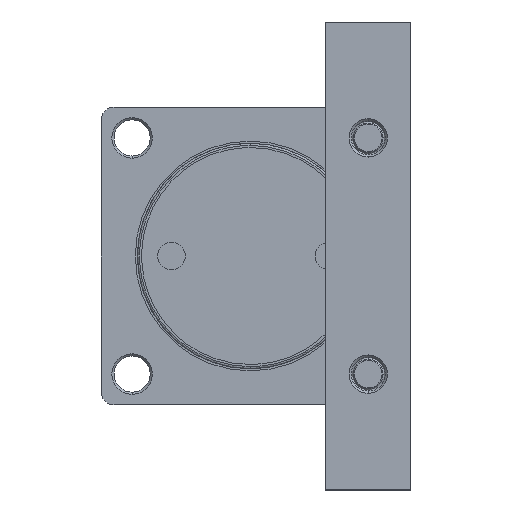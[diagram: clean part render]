
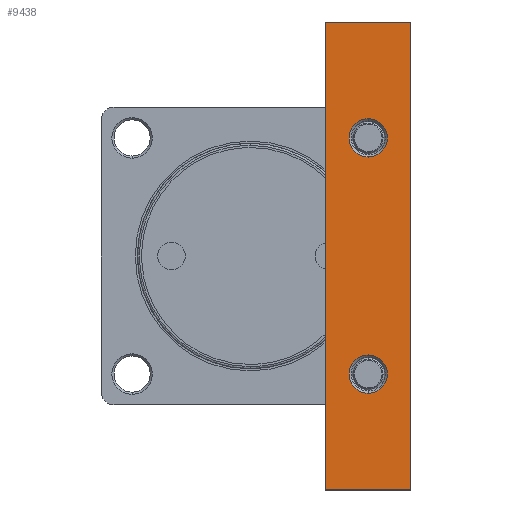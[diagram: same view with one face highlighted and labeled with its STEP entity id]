
A CAD part, left-side view. The second image highlights one B-rep face of the part: STEP entity #9438.
In plain terms, the highlighted planar face has unit normal (1, 0, 0).
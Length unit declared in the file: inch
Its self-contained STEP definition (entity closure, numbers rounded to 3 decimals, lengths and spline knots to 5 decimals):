
#19 = VERTEX_POINT ( 'NONE', #186 ) ;
#186 = CARTESIAN_POINT ( 'NONE',  ( -2.61811, -1.39764, 4.33071 ) ) ;
#230 = ORIENTED_EDGE ( 'NONE', *, *, #6034, .T. ) ;
#429 = VECTOR ( 'NONE', #11850, 39.37008 ) ;
#442 = LINE ( 'NONE', #7673, #429 ) ;
#628 = EDGE_CURVE ( 'NONE', #11640, #9962, #5969, .T. ) ;
#779 = ORIENTED_EDGE ( 'NONE', *, *, #628, .T. ) ;
#931 = ORIENTED_EDGE ( 'NONE', *, *, #4041, .T. ) ;
#1254 = VERTEX_POINT ( 'NONE', #11842 ) ;
#1878 = FACE_BOUND ( 'NONE', #12894, .T. ) ;
#1969 = FACE_OUTER_BOUND ( 'NONE', #3235, .T. ) ;
#1982 = FACE_BOUND ( 'NONE', #4458, .T. ) ;
#2039 = LINE ( 'NONE', #11623, #2139 ) ;
#2139 = VECTOR ( 'NONE', #6812, 39.37008 ) ;
#2271 = DIRECTION ( 'NONE',  ( 0., 1., 0. ) ) ;
#2320 = CARTESIAN_POINT ( 'NONE',  ( -2.61811, -2.97244, -4.33071 ) ) ;
#2336 = AXIS2_PLACEMENT_3D ( 'NONE', #9637, #9620, #9611 ) ;
#2429 = VECTOR ( 'NONE', #11247, 39.37008 ) ;
#2572 = LINE ( 'NONE', #13153, #2429 ) ;
#2613 = DIRECTION ( 'NONE',  ( 0., 0., -1. ) ) ;
#2740 = AXIS2_PLACEMENT_3D ( 'NONE', #9791, #9804, #9810 ) ;
#3235 = EDGE_LOOP ( 'NONE', ( #11594, #4270, #6238, #931 ) ) ;
#3581 = VERTEX_POINT ( 'NONE', #9352 ) ;
#4041 = EDGE_CURVE ( 'NONE', #1254, #9660, #11193, .T. ) ;
#4270 = ORIENTED_EDGE ( 'NONE', *, *, #9503, .T. ) ;
#4458 = EDGE_LOOP ( 'NONE', ( #230, #779 ) ) ;
#5829 = CIRCLE ( 'NONE', #2336, 0.35433 ) ;
#5969 = CIRCLE ( 'NONE', #2740, 0.35433 ) ;
#6034 = EDGE_CURVE ( 'NONE', #9962, #11640, #13309, .T. ) ;
#6042 = AXIS2_PLACEMENT_3D ( 'NONE', #8570, #8558, #8547 ) ;
#6075 = EDGE_CURVE ( 'NONE', #3581, #7728, #13368, .T. ) ;
#6113 = ORIENTED_EDGE ( 'NONE', *, *, #6075, .T. ) ;
#6238 = ORIENTED_EDGE ( 'NONE', *, *, #7415, .T. ) ;
#6812 = DIRECTION ( 'NONE',  ( 0., -1., 0. ) ) ;
#6819 = CARTESIAN_POINT ( 'NONE',  ( -2.61811, -1.39764, -4.33071 ) ) ;
#7106 = CARTESIAN_POINT ( 'NONE',  ( -2.61811, -2.18504, -1.83071 ) ) ;
#7415 = EDGE_CURVE ( 'NONE', #7861, #1254, #442, .T. ) ;
#7673 = CARTESIAN_POINT ( 'NONE',  ( -2.61811, -2.97244, 4.33071 ) ) ;
#7728 = VERTEX_POINT ( 'NONE', #12120 ) ;
#7861 = VERTEX_POINT ( 'NONE', #10285 ) ;
#8211 = AXIS2_PLACEMENT_3D ( 'NONE', #8491, #8475, #8460 ) ;
#8460 = DIRECTION ( 'NONE',  ( 0., 0., 1. ) ) ;
#8475 = DIRECTION ( 'NONE',  ( -1., 0., 0. ) ) ;
#8491 = CARTESIAN_POINT ( 'NONE',  ( -2.61811, -2.18504, 2.18504 ) ) ;
#8547 = DIRECTION ( 'NONE',  ( 0., 0., 1. ) ) ;
#8558 = DIRECTION ( 'NONE',  ( -1., 0., 0. ) ) ;
#8570 = CARTESIAN_POINT ( 'NONE',  ( -2.61811, -2.18504, -2.18504 ) ) ;
#9352 = CARTESIAN_POINT ( 'NONE',  ( -2.61811, -2.18504, 1.83071 ) ) ;
#9438 = ADVANCED_FACE ( 'NONE', ( #1969, #1878, #1982 ), #12574, .T. ) ;
#9503 = EDGE_CURVE ( 'NONE', #19, #7861, #2039, .T. ) ;
#9611 = DIRECTION ( 'NONE',  ( 0., 0., 1. ) ) ;
#9620 = DIRECTION ( 'NONE',  ( -1., 0., 0. ) ) ;
#9637 = CARTESIAN_POINT ( 'NONE',  ( -2.61811, -2.18504, 2.18504 ) ) ;
#9660 = VERTEX_POINT ( 'NONE', #6819 ) ;
#9695 = EDGE_CURVE ( 'NONE', #9660, #19, #2572, .T. ) ;
#9791 = CARTESIAN_POINT ( 'NONE',  ( -2.61811, -2.18504, -2.18504 ) ) ;
#9804 = DIRECTION ( 'NONE',  ( -1., 0., 0. ) ) ;
#9810 = DIRECTION ( 'NONE',  ( 0., 0., 1. ) ) ;
#9962 = VERTEX_POINT ( 'NONE', #7106 ) ;
#9997 = CARTESIAN_POINT ( 'NONE',  ( -2.61811, -2.18504, -2.53937 ) ) ;
#10249 = ORIENTED_EDGE ( 'NONE', *, *, #11691, .T. ) ;
#10285 = CARTESIAN_POINT ( 'NONE',  ( -2.61811, -2.97244, 4.33071 ) ) ;
#11193 = LINE ( 'NONE', #2320, #11226 ) ;
#11226 = VECTOR ( 'NONE', #2271, 39.37008 ) ;
#11247 = DIRECTION ( 'NONE',  ( 0., 0., 1. ) ) ;
#11594 = ORIENTED_EDGE ( 'NONE', *, *, #9695, .T. ) ;
#11623 = CARTESIAN_POINT ( 'NONE',  ( -2.61811, -2.97244, 4.33071 ) ) ;
#11640 = VERTEX_POINT ( 'NONE', #9997 ) ;
#11691 = EDGE_CURVE ( 'NONE', #7728, #3581, #5829, .T. ) ;
#11842 = CARTESIAN_POINT ( 'NONE',  ( -2.61811, -2.97244, -4.33071 ) ) ;
#11850 = DIRECTION ( 'NONE',  ( 0., 0., -1. ) ) ;
#12115 = AXIS2_PLACEMENT_3D ( 'NONE', #12645, #13145, #2613 ) ;
#12120 = CARTESIAN_POINT ( 'NONE',  ( -2.61811, -2.18504, 2.53937 ) ) ;
#12574 = PLANE ( 'NONE',  #12115 ) ;
#12645 = CARTESIAN_POINT ( 'NONE',  ( -2.61811, -2.97244, 4.33071 ) ) ;
#12894 = EDGE_LOOP ( 'NONE', ( #10249, #6113 ) ) ;
#13145 = DIRECTION ( 'NONE',  ( 1., 0., 0. ) ) ;
#13153 = CARTESIAN_POINT ( 'NONE',  ( -2.61811, -1.39764, 4.33071 ) ) ;
#13309 = CIRCLE ( 'NONE', #6042, 0.35433 ) ;
#13368 = CIRCLE ( 'NONE', #8211, 0.35433 ) ;
